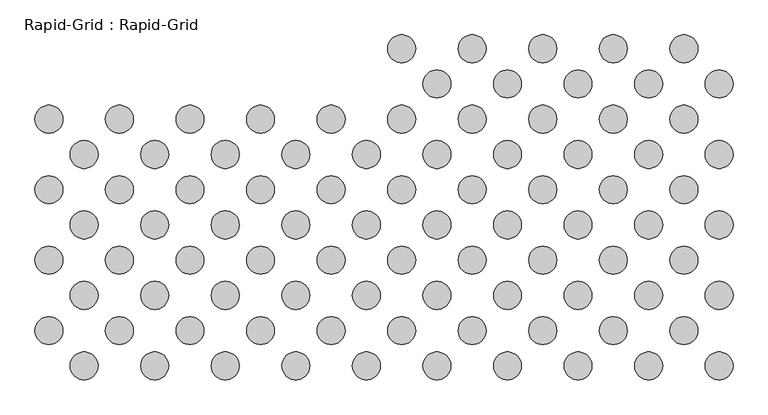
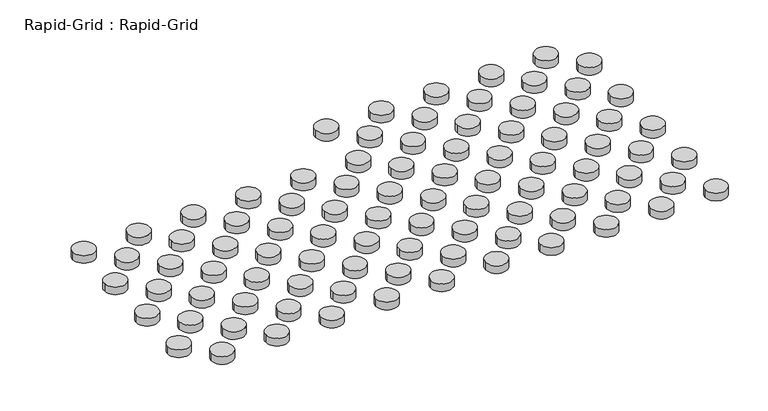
"""IFC4 building model written with IfcOpenShell, lengths in millimetres: proxy geometry, Rapid-Grid : Rapid-Grid."""

from ifc_helpers import new_model, si_unit, point, frame_2d, origin, origin_with_axes, place, context, project, spatial, circle_curve, trimmed, segment, composite_curve, outline, extrude, source, transform, mapped, element, save


def rapid_grid_rapid_grid_55920c60(model_context):
    return source(origin(), model_context, "Body", "SweptSolid", [
        extrude(outline(composite_curve([segment(trimmed(circle_curve(frame_2d((1485.9, -1181.1)), 30.1625), [point((1455.7375, -1181.1))], [point((1516.0625, -1181.1))], False, "CARTESIAN"), True, "CONTINUOUS"), segment(trimmed(circle_curve(frame_2d((1485.9, -1181.1)), 30.1625), [point((1516.0625, -1181.1))], [point((1455.7375, -1181.1))], False, "CARTESIAN"), True, "CONTINUOUS")], self_intersect=False)), origin_with_axes(), (0.0, 0.0, 1.0), 22.225),
        extrude(outline(composite_curve([segment(trimmed(circle_curve(frame_2d((1409.7, -1104.9)), 30.1625), [point((1379.5375, -1104.9))], [point((1439.8625, -1104.9))], False, "CARTESIAN"), True, "CONTINUOUS"), segment(trimmed(circle_curve(frame_2d((1409.7, -1104.9)), 30.1625), [point((1439.8625, -1104.9))], [point((1379.5375, -1104.9))], False, "CARTESIAN"), True, "CONTINUOUS")], self_intersect=False)), origin_with_axes(), (0.0, 0.0, 1.0), 22.225),
        extrude(outline(composite_curve([segment(trimmed(circle_curve(frame_2d((1333.5, -1181.1)), 30.1625), [point((1303.3375, -1181.1))], [point((1363.6625, -1181.1))], False, "CARTESIAN"), True, "CONTINUOUS"), segment(trimmed(circle_curve(frame_2d((1333.5, -1181.1)), 30.1625), [point((1363.6625, -1181.1))], [point((1303.3375, -1181.1))], False, "CARTESIAN"), True, "CONTINUOUS")], self_intersect=False)), origin_with_axes(), (0.0, 0.0, 1.0), 22.225),
        extrude(outline(composite_curve([segment(trimmed(circle_curve(frame_2d((1257.3, -1104.9)), 30.1625), [point((1227.1375, -1104.9))], [point((1287.4625, -1104.9))], False, "CARTESIAN"), True, "CONTINUOUS"), segment(trimmed(circle_curve(frame_2d((1257.3, -1104.9)), 30.1625), [point((1287.4625, -1104.9))], [point((1227.1375, -1104.9))], False, "CARTESIAN"), True, "CONTINUOUS")], self_intersect=False)), origin_with_axes(), (0.0, 0.0, 1.0), 22.225),
        extrude(outline(composite_curve([segment(trimmed(circle_curve(frame_2d((1181.1, -1181.1)), 30.1625), [point((1150.9375, -1181.1))], [point((1211.2625, -1181.1))], False, "CARTESIAN"), True, "CONTINUOUS"), segment(trimmed(circle_curve(frame_2d((1181.1, -1181.1)), 30.1625), [point((1211.2625, -1181.1))], [point((1150.9375, -1181.1))], False, "CARTESIAN"), True, "CONTINUOUS")], self_intersect=False)), origin_with_axes(), (0.0, 0.0, 1.0), 22.225),
        extrude(outline(composite_curve([segment(trimmed(circle_curve(frame_2d((1104.9, -1104.9)), 30.1625), [point((1074.7375, -1104.9))], [point((1135.0625, -1104.9))], False, "CARTESIAN"), True, "CONTINUOUS"), segment(trimmed(circle_curve(frame_2d((1104.9, -1104.9)), 30.1625), [point((1135.0625, -1104.9))], [point((1074.7375, -1104.9))], False, "CARTESIAN"), True, "CONTINUOUS")], self_intersect=False)), origin_with_axes(), (0.0, 0.0, 1.0), 22.225),
        extrude(outline(composite_curve([segment(trimmed(circle_curve(frame_2d((1028.7, -1181.1)), 30.1625), [point((998.5375, -1181.1))], [point((1058.8625, -1181.1))], False, "CARTESIAN"), True, "CONTINUOUS"), segment(trimmed(circle_curve(frame_2d((1028.7, -1181.1)), 30.1625), [point((1058.8625, -1181.1))], [point((998.5375, -1181.1))], False, "CARTESIAN"), True, "CONTINUOUS")], self_intersect=False)), origin_with_axes(), (0.0, 0.0, 1.0), 22.225),
        extrude(outline(composite_curve([segment(trimmed(circle_curve(frame_2d((952.5, -1104.9)), 30.1625), [point((922.3375, -1104.9))], [point((982.6625, -1104.9))], False, "CARTESIAN"), True, "CONTINUOUS"), segment(trimmed(circle_curve(frame_2d((952.5, -1104.9)), 30.1625), [point((982.6625, -1104.9))], [point((922.3375, -1104.9))], False, "CARTESIAN"), True, "CONTINUOUS")], self_intersect=False)), origin_with_axes(), (0.0, 0.0, 1.0), 22.225),
        extrude(outline(composite_curve([segment(trimmed(circle_curve(frame_2d((876.3, -1181.1)), 30.1625), [point((846.1375, -1181.1))], [point((906.4625, -1181.1))], False, "CARTESIAN"), True, "CONTINUOUS"), segment(trimmed(circle_curve(frame_2d((876.3, -1181.1)), 30.1625), [point((906.4625, -1181.1))], [point((846.1375, -1181.1))], False, "CARTESIAN"), True, "CONTINUOUS")], self_intersect=False)), origin_with_axes(), (0.0, 0.0, 1.0), 22.225),
        extrude(outline(composite_curve([segment(trimmed(circle_curve(frame_2d((800.1, -1104.9)), 30.1625), [point((769.9375, -1104.9))], [point((830.2625, -1104.9))], False, "CARTESIAN"), True, "CONTINUOUS"), segment(trimmed(circle_curve(frame_2d((800.1, -1104.9)), 30.1625), [point((830.2625, -1104.9))], [point((769.9375, -1104.9))], False, "CARTESIAN"), True, "CONTINUOUS")], self_intersect=False)), origin_with_axes(), (0.0, 0.0, 1.0), 22.225),
        extrude(outline(composite_curve([segment(trimmed(circle_curve(frame_2d((723.9, -1181.1)), 30.1625), [point((693.7375, -1181.1))], [point((754.0625, -1181.1))], False, "CARTESIAN"), True, "CONTINUOUS"), segment(trimmed(circle_curve(frame_2d((723.9, -1181.1)), 30.1625), [point((754.0625, -1181.1))], [point((693.7375, -1181.1))], False, "CARTESIAN"), True, "CONTINUOUS")], self_intersect=False)), origin_with_axes(), (0.0, 0.0, 1.0), 22.225),
        extrude(outline(composite_curve([segment(trimmed(circle_curve(frame_2d((647.7, -1104.9)), 30.1625), [point((617.5375, -1104.9))], [point((677.8625, -1104.9))], False, "CARTESIAN"), True, "CONTINUOUS"), segment(trimmed(circle_curve(frame_2d((647.7, -1104.9)), 30.1625), [point((677.8625, -1104.9))], [point((617.5375, -1104.9))], False, "CARTESIAN"), True, "CONTINUOUS")], self_intersect=False)), origin_with_axes(), (0.0, 0.0, 1.0), 22.225),
        extrude(outline(composite_curve([segment(trimmed(circle_curve(frame_2d((571.5, -1181.1)), 30.1625), [point((541.3375, -1181.1))], [point((601.6625, -1181.1))], False, "CARTESIAN"), True, "CONTINUOUS"), segment(trimmed(circle_curve(frame_2d((571.5, -1181.1)), 30.1625), [point((601.6625, -1181.1))], [point((541.3375, -1181.1))], False, "CARTESIAN"), True, "CONTINUOUS")], self_intersect=False)), origin_with_axes(), (0.0, 0.0, 1.0), 22.225),
        extrude(outline(composite_curve([segment(trimmed(circle_curve(frame_2d((495.3, -1104.9)), 30.1625), [point((465.1375, -1104.9))], [point((525.4625, -1104.9))], False, "CARTESIAN"), True, "CONTINUOUS"), segment(trimmed(circle_curve(frame_2d((495.3, -1104.9)), 30.1625), [point((525.4625, -1104.9))], [point((465.1375, -1104.9))], False, "CARTESIAN"), True, "CONTINUOUS")], self_intersect=False)), origin_with_axes(), (0.0, 0.0, 1.0), 22.225),
        extrude(outline(composite_curve([segment(trimmed(circle_curve(frame_2d((419.1, -1181.1)), 30.1625), [point((388.9375, -1181.1))], [point((449.2625, -1181.1))], False, "CARTESIAN"), True, "CONTINUOUS"), segment(trimmed(circle_curve(frame_2d((419.1, -1181.1)), 30.1625), [point((449.2625, -1181.1))], [point((388.9375, -1181.1))], False, "CARTESIAN"), True, "CONTINUOUS")], self_intersect=False)), origin_with_axes(), (0.0, 0.0, 1.0), 22.225),
        extrude(outline(composite_curve([segment(trimmed(circle_curve(frame_2d((342.9, -1104.9)), 30.1625), [point((312.7375, -1104.9))], [point((373.0625, -1104.9))], False, "CARTESIAN"), True, "CONTINUOUS"), segment(trimmed(circle_curve(frame_2d((342.9, -1104.9)), 30.1625), [point((373.0625, -1104.9))], [point((312.7375, -1104.9))], False, "CARTESIAN"), True, "CONTINUOUS")], self_intersect=False)), origin_with_axes(), (0.0, 0.0, 1.0), 22.225),
        extrude(outline(composite_curve([segment(trimmed(circle_curve(frame_2d((266.7, -1181.1)), 30.1625), [point((236.5375, -1181.1))], [point((296.8625, -1181.1))], False, "CARTESIAN"), True, "CONTINUOUS"), segment(trimmed(circle_curve(frame_2d((266.7, -1181.1)), 30.1625), [point((296.8625, -1181.1))], [point((236.5375, -1181.1))], False, "CARTESIAN"), True, "CONTINUOUS")], self_intersect=False)), origin_with_axes(), (0.0, 0.0, 1.0), 22.225),
        extrude(outline(composite_curve([segment(trimmed(circle_curve(frame_2d((190.5, -1104.9)), 30.1625), [point((160.3375, -1104.9))], [point((220.6625, -1104.9))], False, "CARTESIAN"), True, "CONTINUOUS"), segment(trimmed(circle_curve(frame_2d((190.5, -1104.9)), 30.1625), [point((220.6625, -1104.9))], [point((160.3375, -1104.9))], False, "CARTESIAN"), True, "CONTINUOUS")], self_intersect=False)), origin_with_axes(), (0.0, 0.0, 1.0), 22.225),
        extrude(outline(composite_curve([segment(trimmed(circle_curve(frame_2d((114.3, -1181.1)), 30.1625), [point((84.1375, -1181.1))], [point((144.4625, -1181.1))], False, "CARTESIAN"), True, "CONTINUOUS"), segment(trimmed(circle_curve(frame_2d((114.3, -1181.1)), 30.1625), [point((144.4625, -1181.1))], [point((84.1375, -1181.1))], False, "CARTESIAN"), True, "CONTINUOUS")], self_intersect=False)), origin_with_axes(), (0.0, 0.0, 1.0), 22.225),
        extrude(outline(composite_curve([segment(trimmed(circle_curve(frame_2d((38.1, -1104.9)), 30.1625), [point((7.9375, -1104.9))], [point((68.2625, -1104.9))], False, "CARTESIAN"), True, "CONTINUOUS"), segment(trimmed(circle_curve(frame_2d((38.1, -1104.9)), 30.1625), [point((68.2625, -1104.9))], [point((7.9375, -1104.9))], False, "CARTESIAN"), True, "CONTINUOUS")], self_intersect=False)), origin_with_axes(), (0.0, 0.0, 1.0), 22.225),
        extrude(outline(composite_curve([segment(trimmed(circle_curve(frame_2d((1485.9, -1028.7)), 30.1625), [point((1455.7375, -1028.7))], [point((1516.0625, -1028.7))], False, "CARTESIAN"), True, "CONTINUOUS"), segment(trimmed(circle_curve(frame_2d((1485.9, -1028.7)), 30.1625), [point((1516.0625, -1028.7))], [point((1455.7375, -1028.7))], False, "CARTESIAN"), True, "CONTINUOUS")], self_intersect=False)), origin_with_axes(), (0.0, 0.0, 1.0), 22.225),
        extrude(outline(composite_curve([segment(trimmed(circle_curve(frame_2d((1409.7, -952.5)), 30.1625), [point((1379.5375, -952.5))], [point((1439.8625, -952.5))], False, "CARTESIAN"), True, "CONTINUOUS"), segment(trimmed(circle_curve(frame_2d((1409.7, -952.5)), 30.1625), [point((1439.8625, -952.5))], [point((1379.5375, -952.5))], False, "CARTESIAN"), True, "CONTINUOUS")], self_intersect=False)), origin_with_axes(), (0.0, 0.0, 1.0), 22.225),
        extrude(outline(composite_curve([segment(trimmed(circle_curve(frame_2d((1333.5, -1028.7)), 30.1625), [point((1303.3375, -1028.7))], [point((1363.6625, -1028.7))], False, "CARTESIAN"), True, "CONTINUOUS"), segment(trimmed(circle_curve(frame_2d((1333.5, -1028.7)), 30.1625), [point((1363.6625, -1028.7))], [point((1303.3375, -1028.7))], False, "CARTESIAN"), True, "CONTINUOUS")], self_intersect=False)), origin_with_axes(), (0.0, 0.0, 1.0), 22.225),
        extrude(outline(composite_curve([segment(trimmed(circle_curve(frame_2d((1257.3, -952.5)), 30.1625), [point((1227.1375, -952.5))], [point((1287.4625, -952.5))], False, "CARTESIAN"), True, "CONTINUOUS"), segment(trimmed(circle_curve(frame_2d((1257.3, -952.5)), 30.1625), [point((1287.4625, -952.5))], [point((1227.1375, -952.5))], False, "CARTESIAN"), True, "CONTINUOUS")], self_intersect=False)), origin_with_axes(), (0.0, 0.0, 1.0), 22.225),
        extrude(outline(composite_curve([segment(trimmed(circle_curve(frame_2d((1181.1, -1028.7)), 30.1625), [point((1150.9375, -1028.7))], [point((1211.2625, -1028.7))], False, "CARTESIAN"), True, "CONTINUOUS"), segment(trimmed(circle_curve(frame_2d((1181.1, -1028.7)), 30.1625), [point((1211.2625, -1028.7))], [point((1150.9375, -1028.7))], False, "CARTESIAN"), True, "CONTINUOUS")], self_intersect=False)), origin_with_axes(), (0.0, 0.0, 1.0), 22.225),
        extrude(outline(composite_curve([segment(trimmed(circle_curve(frame_2d((1104.9, -952.5)), 30.1625), [point((1074.7375, -952.5))], [point((1135.0625, -952.5))], False, "CARTESIAN"), True, "CONTINUOUS"), segment(trimmed(circle_curve(frame_2d((1104.9, -952.5)), 30.1625), [point((1135.0625, -952.5))], [point((1074.7375, -952.5))], False, "CARTESIAN"), True, "CONTINUOUS")], self_intersect=False)), origin_with_axes(), (0.0, 0.0, 1.0), 22.225),
        extrude(outline(composite_curve([segment(trimmed(circle_curve(frame_2d((1028.7, -1028.7)), 30.1625), [point((998.5375, -1028.7))], [point((1058.8625, -1028.7))], False, "CARTESIAN"), True, "CONTINUOUS"), segment(trimmed(circle_curve(frame_2d((1028.7, -1028.7)), 30.1625), [point((1058.8625, -1028.7))], [point((998.5375, -1028.7))], False, "CARTESIAN"), True, "CONTINUOUS")], self_intersect=False)), origin_with_axes(), (0.0, 0.0, 1.0), 22.225),
        extrude(outline(composite_curve([segment(trimmed(circle_curve(frame_2d((952.5, -952.5)), 30.1625), [point((922.3375, -952.5))], [point((982.6625, -952.5))], False, "CARTESIAN"), True, "CONTINUOUS"), segment(trimmed(circle_curve(frame_2d((952.5, -952.5)), 30.1625), [point((982.6625, -952.5))], [point((922.3375, -952.5))], False, "CARTESIAN"), True, "CONTINUOUS")], self_intersect=False)), origin_with_axes(), (0.0, 0.0, 1.0), 22.225),
        extrude(outline(composite_curve([segment(trimmed(circle_curve(frame_2d((876.3, -1028.7)), 30.1625), [point((846.1375, -1028.7))], [point((906.4625, -1028.7))], False, "CARTESIAN"), True, "CONTINUOUS"), segment(trimmed(circle_curve(frame_2d((876.3, -1028.7)), 30.1625), [point((906.4625, -1028.7))], [point((846.1375, -1028.7))], False, "CARTESIAN"), True, "CONTINUOUS")], self_intersect=False)), origin_with_axes(), (0.0, 0.0, 1.0), 22.225),
        extrude(outline(composite_curve([segment(trimmed(circle_curve(frame_2d((800.1, -952.5)), 30.1625), [point((769.9375, -952.5))], [point((830.2625, -952.5))], False, "CARTESIAN"), True, "CONTINUOUS"), segment(trimmed(circle_curve(frame_2d((800.1, -952.5)), 30.1625), [point((830.2625, -952.5))], [point((769.9375, -952.5))], False, "CARTESIAN"), True, "CONTINUOUS")], self_intersect=False)), origin_with_axes(), (0.0, 0.0, 1.0), 22.225),
        extrude(outline(composite_curve([segment(trimmed(circle_curve(frame_2d((723.9, -1028.7)), 30.1625), [point((693.7375, -1028.7))], [point((754.0625, -1028.7))], False, "CARTESIAN"), True, "CONTINUOUS"), segment(trimmed(circle_curve(frame_2d((723.9, -1028.7)), 30.1625), [point((754.0625, -1028.7))], [point((693.7375, -1028.7))], False, "CARTESIAN"), True, "CONTINUOUS")], self_intersect=False)), origin_with_axes(), (0.0, 0.0, 1.0), 22.225),
        extrude(outline(composite_curve([segment(trimmed(circle_curve(frame_2d((647.7, -952.5)), 30.1625), [point((617.5375, -952.5))], [point((677.8625, -952.5))], False, "CARTESIAN"), True, "CONTINUOUS"), segment(trimmed(circle_curve(frame_2d((647.7, -952.5)), 30.1625), [point((677.8625, -952.5))], [point((617.5375, -952.5))], False, "CARTESIAN"), True, "CONTINUOUS")], self_intersect=False)), origin_with_axes(), (0.0, 0.0, 1.0), 22.225),
        extrude(outline(composite_curve([segment(trimmed(circle_curve(frame_2d((571.5, -1028.7)), 30.1625), [point((541.3375, -1028.7))], [point((601.6625, -1028.7))], False, "CARTESIAN"), True, "CONTINUOUS"), segment(trimmed(circle_curve(frame_2d((571.5, -1028.7)), 30.1625), [point((601.6625, -1028.7))], [point((541.3375, -1028.7))], False, "CARTESIAN"), True, "CONTINUOUS")], self_intersect=False)), origin_with_axes(), (0.0, 0.0, 1.0), 22.225),
        extrude(outline(composite_curve([segment(trimmed(circle_curve(frame_2d((495.3, -952.5)), 30.1625), [point((465.1375, -952.5))], [point((525.4625, -952.5))], False, "CARTESIAN"), True, "CONTINUOUS"), segment(trimmed(circle_curve(frame_2d((495.3, -952.5)), 30.1625), [point((525.4625, -952.5))], [point((465.1375, -952.5))], False, "CARTESIAN"), True, "CONTINUOUS")], self_intersect=False)), origin_with_axes(), (0.0, 0.0, 1.0), 22.225),
        extrude(outline(composite_curve([segment(trimmed(circle_curve(frame_2d((419.1, -1028.7)), 30.1625), [point((388.9375, -1028.7))], [point((449.2625, -1028.7))], False, "CARTESIAN"), True, "CONTINUOUS"), segment(trimmed(circle_curve(frame_2d((419.1, -1028.7)), 30.1625), [point((449.2625, -1028.7))], [point((388.9375, -1028.7))], False, "CARTESIAN"), True, "CONTINUOUS")], self_intersect=False)), origin_with_axes(), (0.0, 0.0, 1.0), 22.225),
        extrude(outline(composite_curve([segment(trimmed(circle_curve(frame_2d((342.9, -952.5)), 30.1625), [point((312.7375, -952.5))], [point((373.0625, -952.5))], False, "CARTESIAN"), True, "CONTINUOUS"), segment(trimmed(circle_curve(frame_2d((342.9, -952.5)), 30.1625), [point((373.0625, -952.5))], [point((312.7375, -952.5))], False, "CARTESIAN"), True, "CONTINUOUS")], self_intersect=False)), origin_with_axes(), (0.0, 0.0, 1.0), 22.225),
        extrude(outline(composite_curve([segment(trimmed(circle_curve(frame_2d((266.7, -1028.7)), 30.1625), [point((236.5375, -1028.7))], [point((296.8625, -1028.7))], False, "CARTESIAN"), True, "CONTINUOUS"), segment(trimmed(circle_curve(frame_2d((266.7, -1028.7)), 30.1625), [point((296.8625, -1028.7))], [point((236.5375, -1028.7))], False, "CARTESIAN"), True, "CONTINUOUS")], self_intersect=False)), origin_with_axes(), (0.0, 0.0, 1.0), 22.225),
        extrude(outline(composite_curve([segment(trimmed(circle_curve(frame_2d((190.5, -952.5)), 30.1625), [point((160.3375, -952.5))], [point((220.6625, -952.5))], False, "CARTESIAN"), True, "CONTINUOUS"), segment(trimmed(circle_curve(frame_2d((190.5, -952.5)), 30.1625), [point((220.6625, -952.5))], [point((160.3375, -952.5))], False, "CARTESIAN"), True, "CONTINUOUS")], self_intersect=False)), origin_with_axes(), (0.0, 0.0, 1.0), 22.225),
        extrude(outline(composite_curve([segment(trimmed(circle_curve(frame_2d((114.3, -1028.7)), 30.1625), [point((84.1375, -1028.7))], [point((144.4625, -1028.7))], False, "CARTESIAN"), True, "CONTINUOUS"), segment(trimmed(circle_curve(frame_2d((114.3, -1028.7)), 30.1625), [point((144.4625, -1028.7))], [point((84.1375, -1028.7))], False, "CARTESIAN"), True, "CONTINUOUS")], self_intersect=False)), origin_with_axes(), (0.0, 0.0, 1.0), 22.225),
        extrude(outline(composite_curve([segment(trimmed(circle_curve(frame_2d((38.1, -952.5)), 30.1625), [point((7.9375, -952.5))], [point((68.2625, -952.5))], False, "CARTESIAN"), True, "CONTINUOUS"), segment(trimmed(circle_curve(frame_2d((38.1, -952.5)), 30.1625), [point((68.2625, -952.5))], [point((7.9375, -952.5))], False, "CARTESIAN"), True, "CONTINUOUS")], self_intersect=False)), origin_with_axes(), (0.0, 0.0, 1.0), 22.225),
        extrude(outline(composite_curve([segment(trimmed(circle_curve(frame_2d((1485.9, -876.3)), 30.1625), [point((1455.7375, -876.3))], [point((1516.0625, -876.3))], False, "CARTESIAN"), True, "CONTINUOUS"), segment(trimmed(circle_curve(frame_2d((1485.9, -876.3)), 30.1625), [point((1516.0625, -876.3))], [point((1455.7375, -876.3))], False, "CARTESIAN"), True, "CONTINUOUS")], self_intersect=False)), origin_with_axes(), (0.0, 0.0, 1.0), 22.225),
        extrude(outline(composite_curve([segment(trimmed(circle_curve(frame_2d((1409.7, -800.1)), 30.1625), [point((1379.5375, -800.1))], [point((1439.8625, -800.1))], False, "CARTESIAN"), True, "CONTINUOUS"), segment(trimmed(circle_curve(frame_2d((1409.7, -800.1)), 30.1625), [point((1439.8625, -800.1))], [point((1379.5375, -800.1))], False, "CARTESIAN"), True, "CONTINUOUS")], self_intersect=False)), origin_with_axes(), (0.0, 0.0, 1.0), 22.225),
        extrude(outline(composite_curve([segment(trimmed(circle_curve(frame_2d((1333.5, -876.3)), 30.1625), [point((1303.3375, -876.3))], [point((1363.6625, -876.3))], False, "CARTESIAN"), True, "CONTINUOUS"), segment(trimmed(circle_curve(frame_2d((1333.5, -876.3)), 30.1625), [point((1363.6625, -876.3))], [point((1303.3375, -876.3))], False, "CARTESIAN"), True, "CONTINUOUS")], self_intersect=False)), origin_with_axes(), (0.0, 0.0, 1.0), 22.225),
        extrude(outline(composite_curve([segment(trimmed(circle_curve(frame_2d((1257.3, -800.1)), 30.1625), [point((1227.1375, -800.1))], [point((1287.4625, -800.1))], False, "CARTESIAN"), True, "CONTINUOUS"), segment(trimmed(circle_curve(frame_2d((1257.3, -800.1)), 30.1625), [point((1287.4625, -800.1))], [point((1227.1375, -800.1))], False, "CARTESIAN"), True, "CONTINUOUS")], self_intersect=False)), origin_with_axes(), (0.0, 0.0, 1.0), 22.225),
        extrude(outline(composite_curve([segment(trimmed(circle_curve(frame_2d((1181.1, -876.3)), 30.1625), [point((1150.9375, -876.3))], [point((1211.2625, -876.3))], False, "CARTESIAN"), True, "CONTINUOUS"), segment(trimmed(circle_curve(frame_2d((1181.1, -876.3)), 30.1625), [point((1211.2625, -876.3))], [point((1150.9375, -876.3))], False, "CARTESIAN"), True, "CONTINUOUS")], self_intersect=False)), origin_with_axes(), (0.0, 0.0, 1.0), 22.225),
        extrude(outline(composite_curve([segment(trimmed(circle_curve(frame_2d((1104.9, -800.1)), 30.1625), [point((1074.7375, -800.1))], [point((1135.0625, -800.1))], False, "CARTESIAN"), True, "CONTINUOUS"), segment(trimmed(circle_curve(frame_2d((1104.9, -800.1)), 30.1625), [point((1135.0625, -800.1))], [point((1074.7375, -800.1))], False, "CARTESIAN"), True, "CONTINUOUS")], self_intersect=False)), origin_with_axes(), (0.0, 0.0, 1.0), 22.225),
        extrude(outline(composite_curve([segment(trimmed(circle_curve(frame_2d((1028.7, -876.3)), 30.1625), [point((998.5375, -876.3))], [point((1058.8625, -876.3))], False, "CARTESIAN"), True, "CONTINUOUS"), segment(trimmed(circle_curve(frame_2d((1028.7, -876.3)), 30.1625), [point((1058.8625, -876.3))], [point((998.5375, -876.3))], False, "CARTESIAN"), True, "CONTINUOUS")], self_intersect=False)), origin_with_axes(), (0.0, 0.0, 1.0), 22.225),
        extrude(outline(composite_curve([segment(trimmed(circle_curve(frame_2d((952.5, -800.1)), 30.1625), [point((922.3375, -800.1))], [point((982.6625, -800.1))], False, "CARTESIAN"), True, "CONTINUOUS"), segment(trimmed(circle_curve(frame_2d((952.5, -800.1)), 30.1625), [point((982.6625, -800.1))], [point((922.3375, -800.1))], False, "CARTESIAN"), True, "CONTINUOUS")], self_intersect=False)), origin_with_axes(), (0.0, 0.0, 1.0), 22.225),
        extrude(outline(composite_curve([segment(trimmed(circle_curve(frame_2d((876.3, -876.3)), 30.1625), [point((846.1375, -876.3))], [point((906.4625, -876.3))], False, "CARTESIAN"), True, "CONTINUOUS"), segment(trimmed(circle_curve(frame_2d((876.3, -876.3)), 30.1625), [point((906.4625, -876.3))], [point((846.1375, -876.3))], False, "CARTESIAN"), True, "CONTINUOUS")], self_intersect=False)), origin_with_axes(), (0.0, 0.0, 1.0), 22.225),
        extrude(outline(composite_curve([segment(trimmed(circle_curve(frame_2d((800.1, -800.1)), 30.1625), [point((769.9375, -800.1))], [point((830.2625, -800.1))], False, "CARTESIAN"), True, "CONTINUOUS"), segment(trimmed(circle_curve(frame_2d((800.1, -800.1)), 30.1625), [point((830.2625, -800.1))], [point((769.9375, -800.1))], False, "CARTESIAN"), True, "CONTINUOUS")], self_intersect=False)), origin_with_axes(), (0.0, 0.0, 1.0), 22.225),
        extrude(outline(composite_curve([segment(trimmed(circle_curve(frame_2d((723.9, -876.3)), 30.1625), [point((693.7375, -876.3))], [point((754.0625, -876.3))], False, "CARTESIAN"), True, "CONTINUOUS"), segment(trimmed(circle_curve(frame_2d((723.9, -876.3)), 30.1625), [point((754.0625, -876.3))], [point((693.7375, -876.3))], False, "CARTESIAN"), True, "CONTINUOUS")], self_intersect=False)), origin_with_axes(), (0.0, 0.0, 1.0), 22.225),
        extrude(outline(composite_curve([segment(trimmed(circle_curve(frame_2d((647.7, -800.1)), 30.1625), [point((617.5375, -800.1))], [point((677.8625, -800.1))], False, "CARTESIAN"), True, "CONTINUOUS"), segment(trimmed(circle_curve(frame_2d((647.7, -800.1)), 30.1625), [point((677.8625, -800.1))], [point((617.5375, -800.1))], False, "CARTESIAN"), True, "CONTINUOUS")], self_intersect=False)), origin_with_axes(), (0.0, 0.0, 1.0), 22.225),
        extrude(outline(composite_curve([segment(trimmed(circle_curve(frame_2d((571.5, -876.3)), 30.1625), [point((541.3375, -876.3))], [point((601.6625, -876.3))], False, "CARTESIAN"), True, "CONTINUOUS"), segment(trimmed(circle_curve(frame_2d((571.5, -876.3)), 30.1625), [point((601.6625, -876.3))], [point((541.3375, -876.3))], False, "CARTESIAN"), True, "CONTINUOUS")], self_intersect=False)), origin_with_axes(), (0.0, 0.0, 1.0), 22.225),
        extrude(outline(composite_curve([segment(trimmed(circle_curve(frame_2d((495.3, -800.1)), 30.1625), [point((465.1375, -800.1))], [point((525.4625, -800.1))], False, "CARTESIAN"), True, "CONTINUOUS"), segment(trimmed(circle_curve(frame_2d((495.3, -800.1)), 30.1625), [point((525.4625, -800.1))], [point((465.1375, -800.1))], False, "CARTESIAN"), True, "CONTINUOUS")], self_intersect=False)), origin_with_axes(), (0.0, 0.0, 1.0), 22.225),
        extrude(outline(composite_curve([segment(trimmed(circle_curve(frame_2d((419.1, -876.3)), 30.1625), [point((388.9375, -876.3))], [point((449.2625, -876.3))], False, "CARTESIAN"), True, "CONTINUOUS"), segment(trimmed(circle_curve(frame_2d((419.1, -876.3)), 30.1625), [point((449.2625, -876.3))], [point((388.9375, -876.3))], False, "CARTESIAN"), True, "CONTINUOUS")], self_intersect=False)), origin_with_axes(), (0.0, 0.0, 1.0), 22.225),
        extrude(outline(composite_curve([segment(trimmed(circle_curve(frame_2d((342.9, -800.1)), 30.1625), [point((312.7375, -800.1))], [point((373.0625, -800.1))], False, "CARTESIAN"), True, "CONTINUOUS"), segment(trimmed(circle_curve(frame_2d((342.9, -800.1)), 30.1625), [point((373.0625, -800.1))], [point((312.7375, -800.1))], False, "CARTESIAN"), True, "CONTINUOUS")], self_intersect=False)), origin_with_axes(), (0.0, 0.0, 1.0), 22.225),
        extrude(outline(composite_curve([segment(trimmed(circle_curve(frame_2d((266.7, -876.3)), 30.1625), [point((236.5375, -876.3))], [point((296.8625, -876.3))], False, "CARTESIAN"), True, "CONTINUOUS"), segment(trimmed(circle_curve(frame_2d((266.7, -876.3)), 30.1625), [point((296.8625, -876.3))], [point((236.5375, -876.3))], False, "CARTESIAN"), True, "CONTINUOUS")], self_intersect=False)), origin_with_axes(), (0.0, 0.0, 1.0), 22.225),
        extrude(outline(composite_curve([segment(trimmed(circle_curve(frame_2d((190.5, -800.1)), 30.1625), [point((160.3375, -800.1))], [point((220.6625, -800.1))], False, "CARTESIAN"), True, "CONTINUOUS"), segment(trimmed(circle_curve(frame_2d((190.5, -800.1)), 30.1625), [point((220.6625, -800.1))], [point((160.3375, -800.1))], False, "CARTESIAN"), True, "CONTINUOUS")], self_intersect=False)), origin_with_axes(), (0.0, 0.0, 1.0), 22.225),
        extrude(outline(composite_curve([segment(trimmed(circle_curve(frame_2d((114.3, -876.3)), 30.1625), [point((84.1375, -876.3))], [point((144.4625, -876.3))], False, "CARTESIAN"), True, "CONTINUOUS"), segment(trimmed(circle_curve(frame_2d((114.3, -876.3)), 30.1625), [point((144.4625, -876.3))], [point((84.1375, -876.3))], False, "CARTESIAN"), True, "CONTINUOUS")], self_intersect=False)), origin_with_axes(), (0.0, 0.0, 1.0), 22.225),
        extrude(outline(composite_curve([segment(trimmed(circle_curve(frame_2d((38.1, -800.1)), 30.1625), [point((7.9375, -800.1))], [point((68.2625, -800.1))], False, "CARTESIAN"), True, "CONTINUOUS"), segment(trimmed(circle_curve(frame_2d((38.1, -800.1)), 30.1625), [point((68.2625, -800.1))], [point((7.9375, -800.1))], False, "CARTESIAN"), True, "CONTINUOUS")], self_intersect=False)), origin_with_axes(), (0.0, 0.0, 1.0), 22.225),
        extrude(outline(composite_curve([segment(trimmed(circle_curve(frame_2d((1485.9, -723.9)), 30.1625), [point((1455.7375, -723.9))], [point((1516.0625, -723.9))], False, "CARTESIAN"), True, "CONTINUOUS"), segment(trimmed(circle_curve(frame_2d((1485.9, -723.9)), 30.1625), [point((1516.0625, -723.9))], [point((1455.7375, -723.9))], False, "CARTESIAN"), True, "CONTINUOUS")], self_intersect=False)), origin_with_axes(), (0.0, 0.0, 1.0), 22.225),
        extrude(outline(composite_curve([segment(trimmed(circle_curve(frame_2d((1409.7, -647.7)), 30.1625), [point((1379.5375, -647.7))], [point((1439.8625, -647.7))], False, "CARTESIAN"), True, "CONTINUOUS"), segment(trimmed(circle_curve(frame_2d((1409.7, -647.7)), 30.1625), [point((1439.8625, -647.7))], [point((1379.5375, -647.7))], False, "CARTESIAN"), True, "CONTINUOUS")], self_intersect=False)), origin_with_axes(), (0.0, 0.0, 1.0), 22.225),
        extrude(outline(composite_curve([segment(trimmed(circle_curve(frame_2d((1333.5, -723.9)), 30.1625), [point((1303.3375, -723.9))], [point((1363.6625, -723.9))], False, "CARTESIAN"), True, "CONTINUOUS"), segment(trimmed(circle_curve(frame_2d((1333.5, -723.9)), 30.1625), [point((1363.6625, -723.9))], [point((1303.3375, -723.9))], False, "CARTESIAN"), True, "CONTINUOUS")], self_intersect=False)), origin_with_axes(), (0.0, 0.0, 1.0), 22.225),
        extrude(outline(composite_curve([segment(trimmed(circle_curve(frame_2d((1257.3, -647.7)), 30.1625), [point((1227.1375, -647.7))], [point((1287.4625, -647.7))], False, "CARTESIAN"), True, "CONTINUOUS"), segment(trimmed(circle_curve(frame_2d((1257.3, -647.7)), 30.1625), [point((1287.4625, -647.7))], [point((1227.1375, -647.7))], False, "CARTESIAN"), True, "CONTINUOUS")], self_intersect=False)), origin_with_axes(), (0.0, 0.0, 1.0), 22.225),
        extrude(outline(composite_curve([segment(trimmed(circle_curve(frame_2d((1181.1, -723.9)), 30.1625), [point((1150.9375, -723.9))], [point((1211.2625, -723.9))], False, "CARTESIAN"), True, "CONTINUOUS"), segment(trimmed(circle_curve(frame_2d((1181.1, -723.9)), 30.1625), [point((1211.2625, -723.9))], [point((1150.9375, -723.9))], False, "CARTESIAN"), True, "CONTINUOUS")], self_intersect=False)), origin_with_axes(), (0.0, 0.0, 1.0), 22.225),
        extrude(outline(composite_curve([segment(trimmed(circle_curve(frame_2d((1104.9, -647.7)), 30.1625), [point((1074.7375, -647.7))], [point((1135.0625, -647.7))], False, "CARTESIAN"), True, "CONTINUOUS"), segment(trimmed(circle_curve(frame_2d((1104.9, -647.7)), 30.1625), [point((1135.0625, -647.7))], [point((1074.7375, -647.7))], False, "CARTESIAN"), True, "CONTINUOUS")], self_intersect=False)), origin_with_axes(), (0.0, 0.0, 1.0), 22.225),
        extrude(outline(composite_curve([segment(trimmed(circle_curve(frame_2d((1028.7, -723.9)), 30.1625), [point((998.5375, -723.9))], [point((1058.8625, -723.9))], False, "CARTESIAN"), True, "CONTINUOUS"), segment(trimmed(circle_curve(frame_2d((1028.7, -723.9)), 30.1625), [point((1058.8625, -723.9))], [point((998.5375, -723.9))], False, "CARTESIAN"), True, "CONTINUOUS")], self_intersect=False)), origin_with_axes(), (0.0, 0.0, 1.0), 22.225),
        extrude(outline(composite_curve([segment(trimmed(circle_curve(frame_2d((952.5, -647.7)), 30.1625), [point((922.3375, -647.7))], [point((982.6625, -647.7))], False, "CARTESIAN"), True, "CONTINUOUS"), segment(trimmed(circle_curve(frame_2d((952.5, -647.7)), 30.1625), [point((982.6625, -647.7))], [point((922.3375, -647.7))], False, "CARTESIAN"), True, "CONTINUOUS")], self_intersect=False)), origin_with_axes(), (0.0, 0.0, 1.0), 22.225),
        extrude(outline(composite_curve([segment(trimmed(circle_curve(frame_2d((876.3, -723.9)), 30.1625), [point((846.1375, -723.9))], [point((906.4625, -723.9))], False, "CARTESIAN"), True, "CONTINUOUS"), segment(trimmed(circle_curve(frame_2d((876.3, -723.9)), 30.1625), [point((906.4625, -723.9))], [point((846.1375, -723.9))], False, "CARTESIAN"), True, "CONTINUOUS")], self_intersect=False)), origin_with_axes(), (0.0, 0.0, 1.0), 22.225),
        extrude(outline(composite_curve([segment(trimmed(circle_curve(frame_2d((800.1, -647.7)), 30.1625), [point((769.9375, -647.7))], [point((830.2625, -647.7))], False, "CARTESIAN"), True, "CONTINUOUS"), segment(trimmed(circle_curve(frame_2d((800.1, -647.7)), 30.1625), [point((830.2625, -647.7))], [point((769.9375, -647.7))], False, "CARTESIAN"), True, "CONTINUOUS")], self_intersect=False)), origin_with_axes(), (0.0, 0.0, 1.0), 22.225),
        extrude(outline(composite_curve([segment(trimmed(circle_curve(frame_2d((723.9, -723.9)), 30.1625), [point((693.7375, -723.9))], [point((754.0625, -723.9))], False, "CARTESIAN"), True, "CONTINUOUS"), segment(trimmed(circle_curve(frame_2d((723.9, -723.9)), 30.1625), [point((754.0625, -723.9))], [point((693.7375, -723.9))], False, "CARTESIAN"), True, "CONTINUOUS")], self_intersect=False)), origin_with_axes(), (0.0, 0.0, 1.0), 22.225),
        extrude(outline(composite_curve([segment(trimmed(circle_curve(frame_2d((647.7, -647.7)), 30.1625), [point((617.5375, -647.7))], [point((677.8625, -647.7))], False, "CARTESIAN"), True, "CONTINUOUS"), segment(trimmed(circle_curve(frame_2d((647.7, -647.7)), 30.1625), [point((677.8625, -647.7))], [point((617.5375, -647.7))], False, "CARTESIAN"), True, "CONTINUOUS")], self_intersect=False)), origin_with_axes(), (0.0, 0.0, 1.0), 22.225),
        extrude(outline(composite_curve([segment(trimmed(circle_curve(frame_2d((571.5, -723.9)), 30.1625), [point((541.3375, -723.9))], [point((601.6625, -723.9))], False, "CARTESIAN"), True, "CONTINUOUS"), segment(trimmed(circle_curve(frame_2d((571.5, -723.9)), 30.1625), [point((601.6625, -723.9))], [point((541.3375, -723.9))], False, "CARTESIAN"), True, "CONTINUOUS")], self_intersect=False)), origin_with_axes(), (0.0, 0.0, 1.0), 22.225),
        extrude(outline(composite_curve([segment(trimmed(circle_curve(frame_2d((495.3, -647.7)), 30.1625), [point((465.1375, -647.7))], [point((525.4625, -647.7))], False, "CARTESIAN"), True, "CONTINUOUS"), segment(trimmed(circle_curve(frame_2d((495.3, -647.7)), 30.1625), [point((525.4625, -647.7))], [point((465.1375, -647.7))], False, "CARTESIAN"), True, "CONTINUOUS")], self_intersect=False)), origin_with_axes(), (0.0, 0.0, 1.0), 22.225),
        extrude(outline(composite_curve([segment(trimmed(circle_curve(frame_2d((419.1, -723.9)), 30.1625), [point((388.9375, -723.9))], [point((449.2625, -723.9))], False, "CARTESIAN"), True, "CONTINUOUS"), segment(trimmed(circle_curve(frame_2d((419.1, -723.9)), 30.1625), [point((449.2625, -723.9))], [point((388.9375, -723.9))], False, "CARTESIAN"), True, "CONTINUOUS")], self_intersect=False)), origin_with_axes(), (0.0, 0.0, 1.0), 22.225),
        extrude(outline(composite_curve([segment(trimmed(circle_curve(frame_2d((342.9, -647.7)), 30.1625), [point((312.7375, -647.7))], [point((373.0625, -647.7))], False, "CARTESIAN"), True, "CONTINUOUS"), segment(trimmed(circle_curve(frame_2d((342.9, -647.7)), 30.1625), [point((373.0625, -647.7))], [point((312.7375, -647.7))], False, "CARTESIAN"), True, "CONTINUOUS")], self_intersect=False)), origin_with_axes(), (0.0, 0.0, 1.0), 22.225),
        extrude(outline(composite_curve([segment(trimmed(circle_curve(frame_2d((266.7, -723.9)), 30.1625), [point((236.5375, -723.9))], [point((296.8625, -723.9))], False, "CARTESIAN"), True, "CONTINUOUS"), segment(trimmed(circle_curve(frame_2d((266.7, -723.9)), 30.1625), [point((296.8625, -723.9))], [point((236.5375, -723.9))], False, "CARTESIAN"), True, "CONTINUOUS")], self_intersect=False)), origin_with_axes(), (0.0, 0.0, 1.0), 22.225),
        extrude(outline(composite_curve([segment(trimmed(circle_curve(frame_2d((190.5, -647.7)), 30.1625), [point((160.3375, -647.7))], [point((220.6625, -647.7))], False, "CARTESIAN"), True, "CONTINUOUS"), segment(trimmed(circle_curve(frame_2d((190.5, -647.7)), 30.1625), [point((220.6625, -647.7))], [point((160.3375, -647.7))], False, "CARTESIAN"), True, "CONTINUOUS")], self_intersect=False)), origin_with_axes(), (0.0, 0.0, 1.0), 22.225),
        extrude(outline(composite_curve([segment(trimmed(circle_curve(frame_2d((114.3, -723.9)), 30.1625), [point((84.1375, -723.9))], [point((144.4625, -723.9))], False, "CARTESIAN"), True, "CONTINUOUS"), segment(trimmed(circle_curve(frame_2d((114.3, -723.9)), 30.1625), [point((144.4625, -723.9))], [point((84.1375, -723.9))], False, "CARTESIAN"), True, "CONTINUOUS")], self_intersect=False)), origin_with_axes(), (0.0, 0.0, 1.0), 22.225),
        extrude(outline(composite_curve([segment(trimmed(circle_curve(frame_2d((38.1, -647.7)), 30.1625), [point((7.9375, -647.7))], [point((68.2625, -647.7))], False, "CARTESIAN"), True, "CONTINUOUS"), segment(trimmed(circle_curve(frame_2d((38.1, -647.7)), 30.1625), [point((68.2625, -647.7))], [point((7.9375, -647.7))], False, "CARTESIAN"), True, "CONTINUOUS")], self_intersect=False)), origin_with_axes(), (0.0, 0.0, 1.0), 22.225),
        extrude(outline(composite_curve([segment(trimmed(circle_curve(frame_2d((1485.9, -571.5)), 30.1625), [point((1455.7375, -571.5))], [point((1516.0625, -571.5))], False, "CARTESIAN"), True, "CONTINUOUS"), segment(trimmed(circle_curve(frame_2d((1485.9, -571.5)), 30.1625), [point((1516.0625, -571.5))], [point((1455.7375, -571.5))], False, "CARTESIAN"), True, "CONTINUOUS")], self_intersect=False)), origin_with_axes(), (0.0, 0.0, 1.0), 22.225),
        extrude(outline(composite_curve([segment(trimmed(circle_curve(frame_2d((1409.7, -495.3)), 30.1625), [point((1379.5375, -495.3))], [point((1439.8625, -495.3))], False, "CARTESIAN"), True, "CONTINUOUS"), segment(trimmed(circle_curve(frame_2d((1409.7, -495.3)), 30.1625), [point((1439.8625, -495.3))], [point((1379.5375, -495.3))], False, "CARTESIAN"), True, "CONTINUOUS")], self_intersect=False)), origin_with_axes(), (0.0, 0.0, 1.0), 22.225),
        extrude(outline(composite_curve([segment(trimmed(circle_curve(frame_2d((1333.5, -571.5)), 30.1625), [point((1303.3375, -571.5))], [point((1363.6625, -571.5))], False, "CARTESIAN"), True, "CONTINUOUS"), segment(trimmed(circle_curve(frame_2d((1333.5, -571.5)), 30.1625), [point((1363.6625, -571.5))], [point((1303.3375, -571.5))], False, "CARTESIAN"), True, "CONTINUOUS")], self_intersect=False)), origin_with_axes(), (0.0, 0.0, 1.0), 22.225),
        extrude(outline(composite_curve([segment(trimmed(circle_curve(frame_2d((1257.3, -495.3)), 30.1625), [point((1227.1375, -495.3))], [point((1287.4625, -495.3))], False, "CARTESIAN"), True, "CONTINUOUS"), segment(trimmed(circle_curve(frame_2d((1257.3, -495.3)), 30.1625), [point((1287.4625, -495.3))], [point((1227.1375, -495.3))], False, "CARTESIAN"), True, "CONTINUOUS")], self_intersect=False)), origin_with_axes(), (0.0, 0.0, 1.0), 22.225),
        extrude(outline(composite_curve([segment(trimmed(circle_curve(frame_2d((1181.1, -571.5)), 30.1625), [point((1150.9375, -571.5))], [point((1211.2625, -571.5))], False, "CARTESIAN"), True, "CONTINUOUS"), segment(trimmed(circle_curve(frame_2d((1181.1, -571.5)), 30.1625), [point((1211.2625, -571.5))], [point((1150.9375, -571.5))], False, "CARTESIAN"), True, "CONTINUOUS")], self_intersect=False)), origin_with_axes(), (0.0, 0.0, 1.0), 22.225),
        extrude(outline(composite_curve([segment(trimmed(circle_curve(frame_2d((1104.9, -495.3)), 30.1625), [point((1074.7375, -495.3))], [point((1135.0625, -495.3))], False, "CARTESIAN"), True, "CONTINUOUS"), segment(trimmed(circle_curve(frame_2d((1104.9, -495.3)), 30.1625), [point((1135.0625, -495.3))], [point((1074.7375, -495.3))], False, "CARTESIAN"), True, "CONTINUOUS")], self_intersect=False)), origin_with_axes(), (0.0, 0.0, 1.0), 22.225),
        extrude(outline(composite_curve([segment(trimmed(circle_curve(frame_2d((1028.7, -571.5)), 30.1625), [point((998.5375, -571.5))], [point((1058.8625, -571.5))], False, "CARTESIAN"), True, "CONTINUOUS"), segment(trimmed(circle_curve(frame_2d((1028.7, -571.5)), 30.1625), [point((1058.8625, -571.5))], [point((998.5375, -571.5))], False, "CARTESIAN"), True, "CONTINUOUS")], self_intersect=False)), origin_with_axes(), (0.0, 0.0, 1.0), 22.225),
        extrude(outline(composite_curve([segment(trimmed(circle_curve(frame_2d((952.5, -495.3)), 30.1625), [point((922.3375, -495.3))], [point((982.6625, -495.3))], False, "CARTESIAN"), True, "CONTINUOUS"), segment(trimmed(circle_curve(frame_2d((952.5, -495.3)), 30.1625), [point((982.6625, -495.3))], [point((922.3375, -495.3))], False, "CARTESIAN"), True, "CONTINUOUS")], self_intersect=False)), origin_with_axes(), (0.0, 0.0, 1.0), 22.225),
        extrude(outline(composite_curve([segment(trimmed(circle_curve(frame_2d((876.3, -571.5)), 30.1625), [point((846.1375, -571.5))], [point((906.4625, -571.5))], False, "CARTESIAN"), True, "CONTINUOUS"), segment(trimmed(circle_curve(frame_2d((876.3, -571.5)), 30.1625), [point((906.4625, -571.5))], [point((846.1375, -571.5))], False, "CARTESIAN"), True, "CONTINUOUS")], self_intersect=False)), origin_with_axes(), (0.0, 0.0, 1.0), 22.225),
        extrude(outline(composite_curve([segment(trimmed(circle_curve(frame_2d((800.1, -495.3)), 30.1625), [point((769.9375, -495.3))], [point((830.2625, -495.3))], False, "CARTESIAN"), True, "CONTINUOUS"), segment(trimmed(circle_curve(frame_2d((800.1, -495.3)), 30.1625), [point((830.2625, -495.3))], [point((769.9375, -495.3))], False, "CARTESIAN"), True, "CONTINUOUS")], self_intersect=False)), origin_with_axes(), (0.0, 0.0, 1.0), 22.225),
    ])


if __name__ == "__main__":
    model = new_model("IFC4")
    model_context = context("Model", 3, world=origin())
    ifc_project = project(units=[si_unit("LENGTHUNIT", "METRE", prefix="MILLI")], contexts=[model_context])
    site = spatial("IfcSite", under=ifc_project)
    building = spatial("IfcBuilding", under=site)
    placement = place(None, origin())
    rapid_grid_rapid_grid_shape = rapid_grid_rapid_grid_55920c60(model_context)
    element("IfcBuildingElementProxy", 1, Name="Rapid-Grid : Rapid-Grid", ObjectType="Rapid-Grid : Rapid-Grid", at=placement, inside=building, context=model_context, shape_type="MappedRepresentation", body=[
        mapped(rapid_grid_rapid_grid_shape, transform((0.0, 0.0, 0.0), x_axis=(1.0, 0.0, 0.0), y_axis=(0.0, 1.0, 0.0), z_axis=(0.0, 0.0, 1.0))),
    ])
    save(model, "model.ifc")
